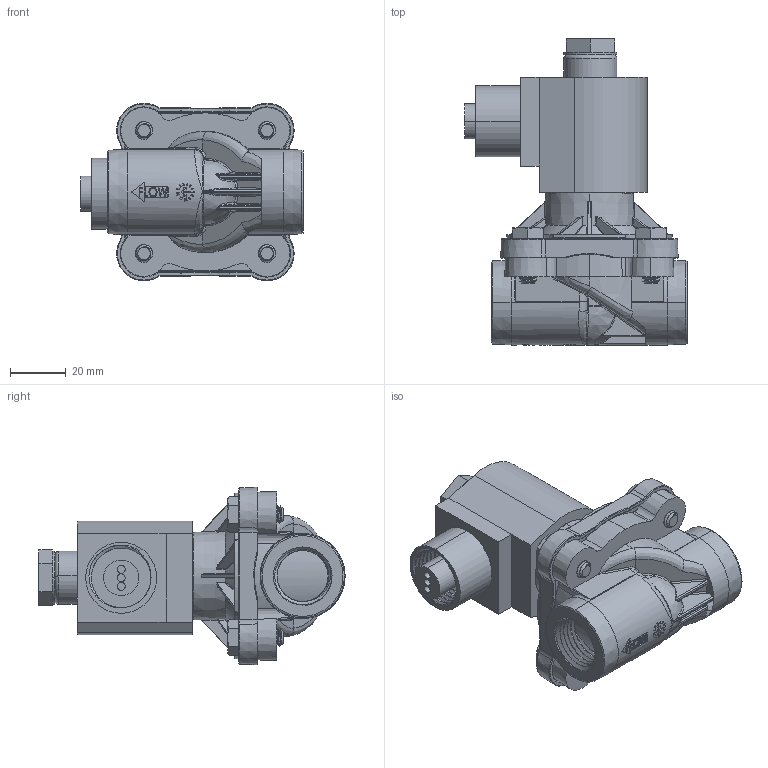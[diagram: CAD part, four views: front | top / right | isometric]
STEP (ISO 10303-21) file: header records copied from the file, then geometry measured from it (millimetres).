
FILE_DESCRIPTION (( 'STEP AP203' ), '1' );
FILE_NAME ('S212GxxxxPDG4.STEP', '2024-05-02T18:34:42', ( '' ), ( '' ), 'SwSTEP 2.0', 'SolidWorks 2023', '' );
FILE_SCHEMA (( 'CONFIG_CONTROL_DESIGN' ));
Length unit declared in the file: millimetre
Products named in the file (1): S212GxxxxPDG4
Bounding box: 79.54 x 109.49 x 63.5 mm (x, y, z)
Volume: 172110 mm3; surface area: 35986.9 mm2
Topology: 1 solids, 1 shells, 2011 faces, 5128 edges, 3085 vertices
Faces by surface type: bspline 849, plane 504, cylinder 250, torus 174, cone 149, sphere 85
Entity records: 102341 total; most frequent: CARTESIAN_POINT 61118, ORIENTED_EDGE 10030, DIRECTION 6452, EDGE_CURVE 5015, VERTEX_POINT 3082, AXIS2_PLACEMENT_3D 2391, EDGE_LOOP 2087, ADVANCED_FACE 2011
